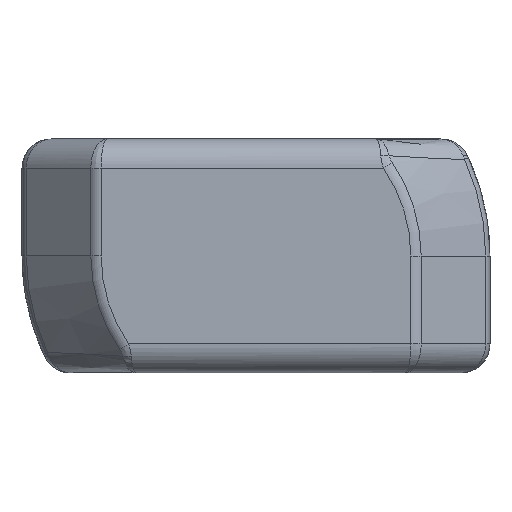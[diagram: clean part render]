
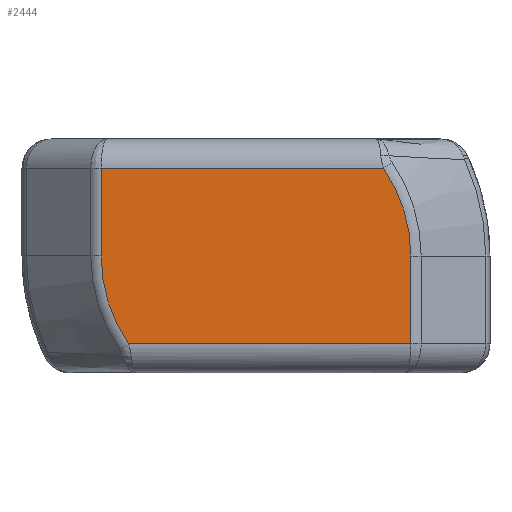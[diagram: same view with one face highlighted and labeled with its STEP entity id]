
A CAD part, front view. The second image highlights one B-rep face of the part: STEP entity #2444.
In plain terms, the highlighted planar face has unit normal (0, -1, 0).
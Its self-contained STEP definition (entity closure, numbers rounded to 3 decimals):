
#122=PLANE('',#2668);
#349=FACE_OUTER_BOUND('',#489,.T.);
#489=EDGE_LOOP('',(#2244,#2245,#2246,#2247,#2248,#2249));
#518=CIRCLE('',#2578,5.293);
#520=CIRCLE('',#2581,5.293);
#637=LINE('',#7591,#805);
#642=LINE('',#8054,#810);
#650=LINE('',#8298,#818);
#652=LINE('',#8312,#820);
#805=VECTOR('',#2904,1000.);
#810=VECTOR('',#2941,1000.);
#818=VECTOR('',#2977,1000.);
#820=VECTOR('',#2997,1000.);
#1043=VERTEX_POINT('',#7559);
#1046=VERTEX_POINT('',#7590);
#1068=VERTEX_POINT('',#8052);
#1069=VERTEX_POINT('',#8053);
#1082=VERTEX_POINT('',#8297);
#1085=VERTEX_POINT('',#8308);
#1331=EDGE_CURVE('',#1046,#1043,#637,.T.);
#1364=EDGE_CURVE('',#1068,#1069,#642,.T.);
#1387=EDGE_CURVE('',#1069,#1082,#650,.T.);
#1391=EDGE_CURVE('',#1082,#1046,#518,.T.);
#1393=EDGE_CURVE('',#1085,#1068,#520,.T.);
#1395=EDGE_CURVE('',#1043,#1085,#652,.T.);
#2244=ORIENTED_EDGE('',*,*,#1393,.T.);
#2245=ORIENTED_EDGE('',*,*,#1364,.T.);
#2246=ORIENTED_EDGE('',*,*,#1387,.T.);
#2247=ORIENTED_EDGE('',*,*,#1391,.T.);
#2248=ORIENTED_EDGE('',*,*,#1331,.T.);
#2249=ORIENTED_EDGE('',*,*,#1395,.T.);
#2444=ADVANCED_FACE('',(#349),#122,.F.);
#2578=AXIS2_PLACEMENT_3D('',#8304,#2985,#2986);
#2581=AXIS2_PLACEMENT_3D('',#8309,#2991,#2992);
#2668=AXIS2_PLACEMENT_3D('',#8548,#3257,#3258);
#2904=DIRECTION('',(-1.,0.,0.));
#2941=DIRECTION('',(1.,0.,0.));
#2977=DIRECTION('',(0.,0.,1.));
#2985=DIRECTION('center_axis',(0.,-1.,0.));
#2986=DIRECTION('ref_axis',(0.,0.,1.));
#2991=DIRECTION('center_axis',(0.,-1.,0.));
#2992=DIRECTION('ref_axis',(0.,0.,1.));
#2997=DIRECTION('',(0.,0.,-1.));
#3257=DIRECTION('center_axis',(0.,1.,0.));
#3258=DIRECTION('ref_axis',(1.,0.,0.));
#7559=CARTESIAN_POINT('',(-5.293,0.,3.));
#7590=CARTESIAN_POINT('',(4.361,0.,3.));
#7591=CARTESIAN_POINT('',(0.,0.,3.));
#8052=CARTESIAN_POINT('',(-4.361,0.,-3.));
#8053=CARTESIAN_POINT('',(5.293,0.,-3.));
#8054=CARTESIAN_POINT('',(0.,0.,-3.));
#8297=CARTESIAN_POINT('',(5.293,0.,0.));
#8298=CARTESIAN_POINT('',(5.293,0.,0.));
#8304=CARTESIAN_POINT('Origin',(0.,0.,0.));
#8308=CARTESIAN_POINT('',(-5.293,0.,0.));
#8309=CARTESIAN_POINT('Origin',(0.,0.,0.));
#8312=CARTESIAN_POINT('',(-5.293,0.,0.));
#8548=CARTESIAN_POINT('Origin',(0.,0.,0.));
